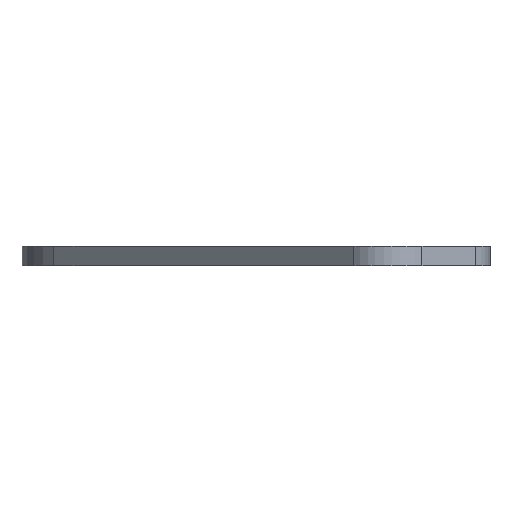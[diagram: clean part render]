
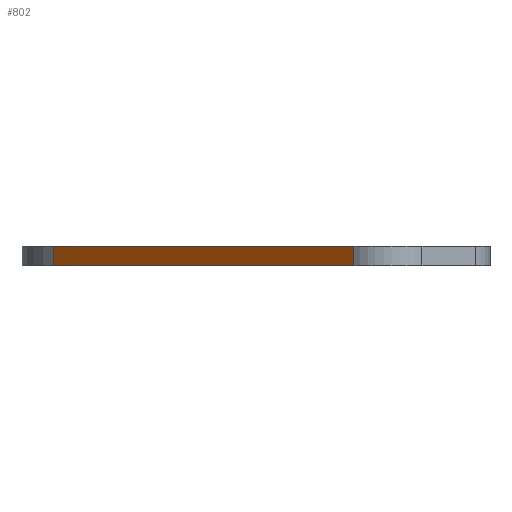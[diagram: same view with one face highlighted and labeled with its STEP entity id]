
A CAD part, front view. The second image highlights one B-rep face of the part: STEP entity #802.
In plain terms, the highlighted planar face has unit normal (-0.708, -0.707, 0).
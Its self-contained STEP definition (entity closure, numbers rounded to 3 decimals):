
#132 = CARTESIAN_POINT ( 'NONE',  ( -68.862, 54.812, -2. ) ) ;
#187 = CARTESIAN_POINT ( 'NONE',  ( -68.862, 54.812, 2. ) ) ;
#234 = DIRECTION ( 'NONE',  ( 0., 0., -1. ) ) ;
#235 = VECTOR ( 'NONE', #234, 1000. ) ;
#236 = CARTESIAN_POINT ( 'NONE',  ( -68.862, 54.812, 2. ) ) ;
#237 = LINE ( 'NONE', #236, #235 ) ;
#299 = CARTESIAN_POINT ( 'NONE',  ( -7.076, -7.066, 2. ) ) ;
#315 = DIRECTION ( 'NONE',  ( 0.707, -0.708, 0. ) ) ;
#316 = VECTOR ( 'NONE', #315, 1000. ) ;
#317 = CARTESIAN_POINT ( 'NONE',  ( -68.862, 54.812, 2. ) ) ;
#318 = LINE ( 'NONE', #317, #316 ) ;
#343 = FACE_OUTER_BOUND ( 'NONE', #792, .T. ) ;
#372 = DIRECTION ( 'NONE',  ( -0.707, 0.708, 0. ) ) ;
#373 = DIRECTION ( 'NONE',  ( 0.708, 0.707, 0. ) ) ;
#378 = AXIS2_PLACEMENT_3D ( 'NONE', #392, #373, #372 ) ;
#390 = PLANE ( 'NONE',  #378 ) ;
#392 = CARTESIAN_POINT ( 'NONE',  ( -68.862, 54.812, 2. ) ) ;
#409 = DIRECTION ( 'NONE',  ( 0., 0., -1. ) ) ;
#410 = VECTOR ( 'NONE', #409, 1000. ) ;
#411 = CARTESIAN_POINT ( 'NONE',  ( -7.076, -7.066, 2. ) ) ;
#412 = LINE ( 'NONE', #411, #410 ) ;
#455 = CARTESIAN_POINT ( 'NONE',  ( -7.076, -7.066, -2. ) ) ;
#457 = CARTESIAN_POINT ( 'NONE',  ( -68.862, 54.812, -2. ) ) ;
#463 = DIRECTION ( 'NONE',  ( 0.707, -0.708, 0. ) ) ;
#518 = VECTOR ( 'NONE', #463, 1000. ) ;
#520 = LINE ( 'NONE', #457, #518 ) ;
#654 = VERTEX_POINT ( 'NONE', #132 ) ;
#690 = VERTEX_POINT ( 'NONE', #187 ) ;
#705 = EDGE_CURVE ( 'NONE', #690, #654, #237, .T. ) ;
#739 = VERTEX_POINT ( 'NONE', #299 ) ;
#763 = EDGE_CURVE ( 'NONE', #690, #739, #318, .T. ) ;
#769 = ORIENTED_EDGE ( 'NONE', *, *, #817, .F. ) ;
#792 = EDGE_LOOP ( 'NONE', ( #807, #769, #804, #799 ) ) ;
#799 = ORIENTED_EDGE ( 'NONE', *, *, #705, .T. ) ;
#802 = ADVANCED_FACE ( 'NONE', ( #343 ), #390, .F. ) ;
#804 = ORIENTED_EDGE ( 'NONE', *, *, #763, .F. ) ;
#807 = ORIENTED_EDGE ( 'NONE', *, *, #868, .T. ) ;
#817 = EDGE_CURVE ( 'NONE', #739, #833, #412, .T. ) ;
#833 = VERTEX_POINT ( 'NONE', #455 ) ;
#868 = EDGE_CURVE ( 'NONE', #654, #833, #520, .T. ) ;
